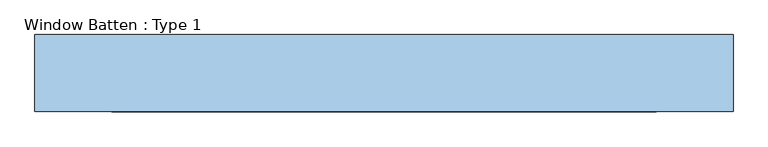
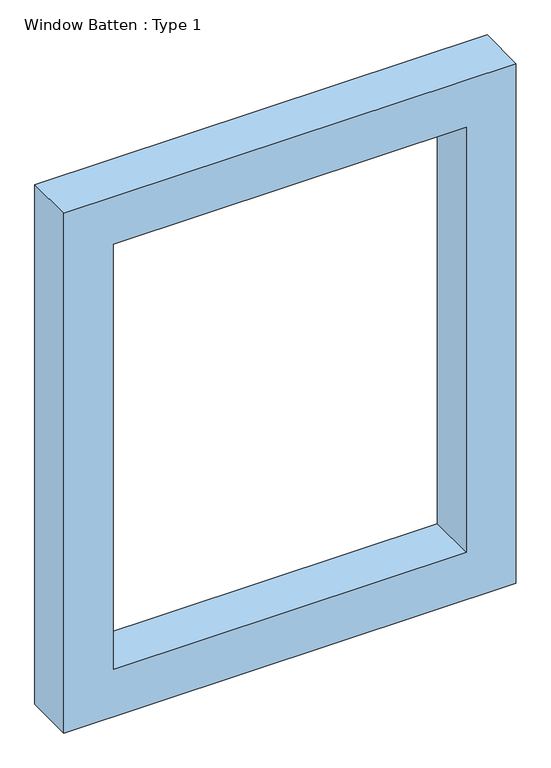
"""IFC4 building model written with IfcOpenShell, lengths in millimetres: window geometry, Window Batten : Type 1."""

from ifc_helpers import new_model, si_unit, frame, origin, place, context, project, spatial, polyline, outline, extrude, source, transform, mapped, element, save


def window_batten_type_1_98129cd1(model_context):
    return source(origin(), model_context, "Body", "SweptSolid", [
        extrude(outline(polyline([(2708.8484214, -781.2186802), (509.7407422, -781.2186802), (509.7407422, 1031.2186802), (2708.8484214, 1031.2186802), (2708.8484214, -781.2186802)]), holes=[polyline([(2508.8484214, -581.2186802), (2508.8484214, 831.2186802), (709.7407422, 831.2186802), (709.7407422, -581.2186802), (2508.8484214, -581.2186802)])]), frame((0.0, -310.0, 0.0), z_axis=(0.0, 1.0, 0.0), x_axis=(0.0, 0.0, 1.0)), (0.0, 0.0, 1.0), 200.0),
    ])


if __name__ == "__main__":
    model = new_model("IFC4")
    model_context = context("Model", 3, world=origin())
    ifc_project = project(units=[si_unit("LENGTHUNIT", "METRE", prefix="MILLI")], contexts=[model_context])
    site = spatial("IfcSite", under=ifc_project)
    building = spatial("IfcBuilding", under=site)
    placement = place(None, origin())
    window_batten_type_1_shape = window_batten_type_1_98129cd1(model_context)
    element("IfcWindow", 1, ObjectType="Window Batten : Type 1", at=placement, inside=building, context=model_context, shape_type="MappedRepresentation", body=[
        mapped(window_batten_type_1_shape, transform((0.0, 0.0, 0.0), x_axis=(1.0, 0.0, 0.0), y_axis=(0.0, 1.0, 0.0), z_axis=(0.0, 0.0, 1.0))),
    ])
    save(model, "model.ifc")
